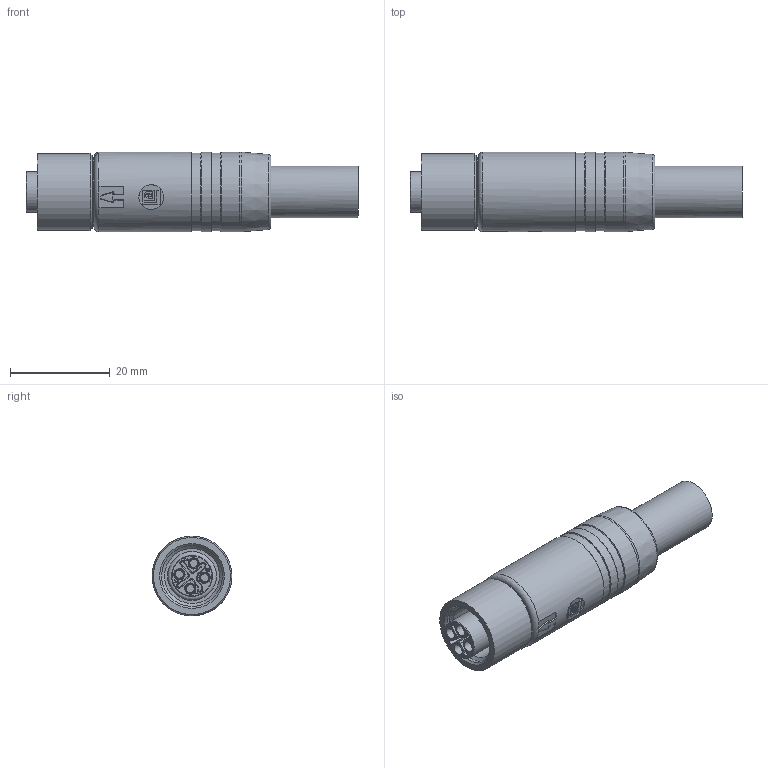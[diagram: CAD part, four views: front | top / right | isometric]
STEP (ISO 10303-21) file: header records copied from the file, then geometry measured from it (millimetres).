
FILE_DESCRIPTION( ( 'Unknown' ), '1' );
FILE_NAME( 'C:/caxtemp/934-849-999_0_1_000191615DNR_RKT_S__4S____M.stp', 'Unknown', ( 'Unknown' ), ( 'Unknown' ), 'PSStep 17.0.49', 'Unknown', ' ' );
FILE_SCHEMA( ( 'AUTOMOTIVE_DESIGN { 1 0 10303 214 1 1 1 1 }' ) );
Length unit declared in the file: millimetre
Products named in the file (1): 000-062-C12_0_1_000116998DNR
Bounding box: 66.65 x 16 x 15.99 mm (x, y, z)
Volume: 10242.7 mm3; surface area: 4251.5 mm2
Topology: 1 solids, 1 shells, 244 faces, 561 edges, 348 vertices
Faces by surface type: plane 109, cylinder 76, torus 34, extrusion 14, cone 9, bspline 2
Full cylindrical faces by diameter (mm): 1.6 x4, 2.25 x4, 8.2 x1, 10.4 x1, 11.05 x1, 12 x1, 12.2 x1, 12.9 x1, 15.5 x1, 15.6 x2, 16 x3
Entity records: 9260 total; most frequent: CARTESIAN_POINT 1939, DIRECTION 1129, ORIENTED_EDGE 1018, EDGE_CURVE 509, AXIS2_PLACEMENT_3D 414, VERTEX_POINT 338, EDGE_LOOP 314, VECTOR 301
